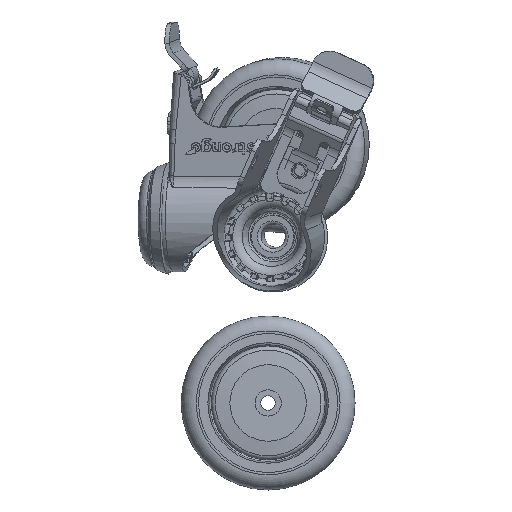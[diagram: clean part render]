
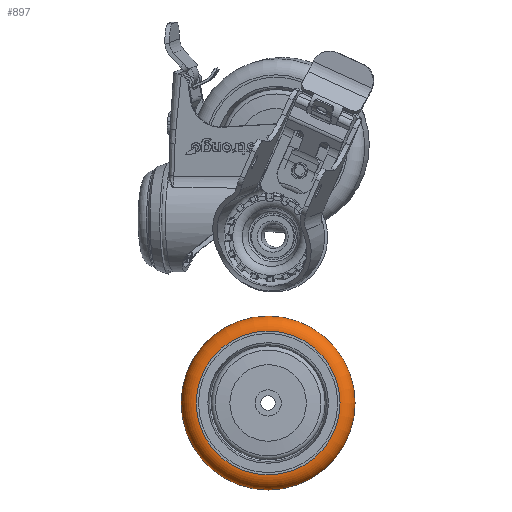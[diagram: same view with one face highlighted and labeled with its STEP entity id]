
A CAD part, top view. The second image highlights one B-rep face of the part: STEP entity #897.
In plain terms, the highlighted toroidal (fillet/blend) face has major radius 31 mm and minor radius 6.5 mm.
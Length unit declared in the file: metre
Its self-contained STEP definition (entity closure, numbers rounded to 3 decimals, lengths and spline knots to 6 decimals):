
#897=ADVANCED_FACE('',(#2735,#2736),#2737,.T.);
#2735=FACE_OUTER_BOUND('',#7260,.T.);
#2736=FACE_OUTER_BOUND('',#7261,.T.);
#2737=TOROIDAL_SURFACE('',#7262,0.031,0.0065);
#7260=EDGE_LOOP('',(#12289));
#7261=EDGE_LOOP('',(#12290));
#7262=AXIS2_PLACEMENT_3D('',#12291,#12292,#12293);
#12289=ORIENTED_EDGE('',*,*,#24055,.T.);
#12290=ORIENTED_EDGE('',*,*,#24056,.T.);
#12291=CARTESIAN_POINT('',(-0.006,0.0,0.0));
#12292=DIRECTION('',(1.0,0.0,-0.0));
#12293=DIRECTION('',(0.0,0.0,1.0));
#24055=EDGE_CURVE('',#28447,#28447,#28448,.T.);
#24056=EDGE_CURVE('',#28449,#28449,#28450,.T.);
#28447=VERTEX_POINT('',#38229);
#28448=CIRCLE('',#38230,0.0375);
#28449=VERTEX_POINT('',#38231);
#28450=CIRCLE('',#38232,0.031);
#38229=CARTESIAN_POINT('',(-0.006,0.0,-0.0375));
#38230=AXIS2_PLACEMENT_3D('',#48847,#48848,#48849);
#38231=CARTESIAN_POINT('',(-0.0125,0.0,-0.031));
#38232=AXIS2_PLACEMENT_3D('',#48850,#48851,#48852);
#48847=CARTESIAN_POINT('',(-0.006,0.0,0.0));
#48848=DIRECTION('',(-1.0,0.0,0.0));
#48849=DIRECTION('',(0.0,0.0,-1.0));
#48850=CARTESIAN_POINT('',(-0.0125,0.0,0.0));
#48851=DIRECTION('',(1.0,0.0,0.0));
#48852=DIRECTION('',(0.0,0.0,-1.0));
